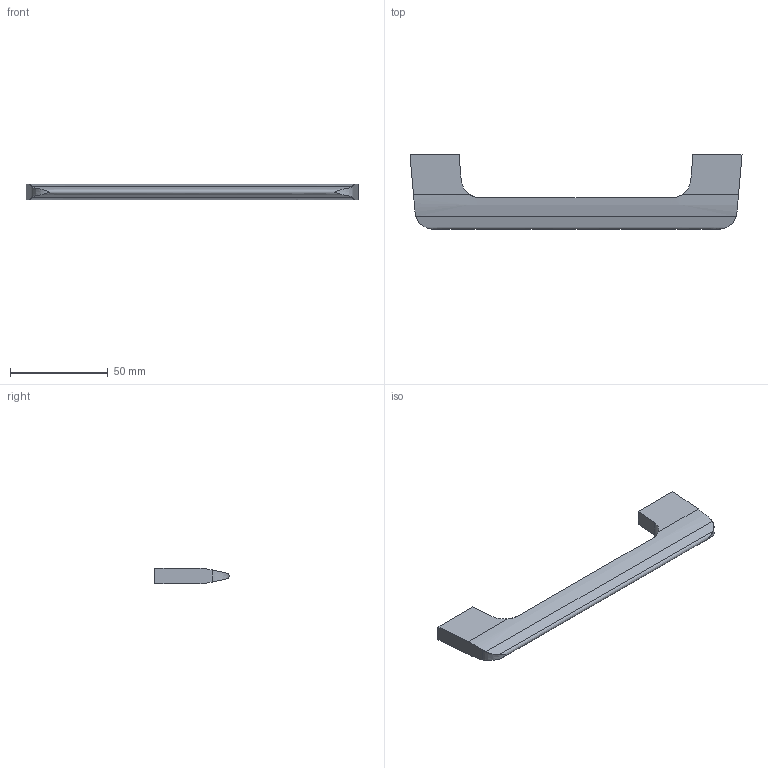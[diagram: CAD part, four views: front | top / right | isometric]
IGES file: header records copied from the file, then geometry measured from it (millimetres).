
Start section: Data from Parasolid IGES Translator 15.0.47, Copyright(c) 2006 Siemens P LM Software. All Rights Reserved.
Global section: file name: 9065632.igs; native system:  By UGS Corp.; preprocessor: XPlus GENERIC/IGES 3.0; author: Noname; organization: Noname; date: 20140122.145110; units: millimetre
Bounding box: 170 x 38 x 8 mm (x, y, z)
Surface area: 10201.8 mm2 (no closed solid volume)
Topology: 0 solids, 0 shells, 24 faces, 124 edges, 122 vertices
Faces by surface type: extrusion 15, revolution 9
